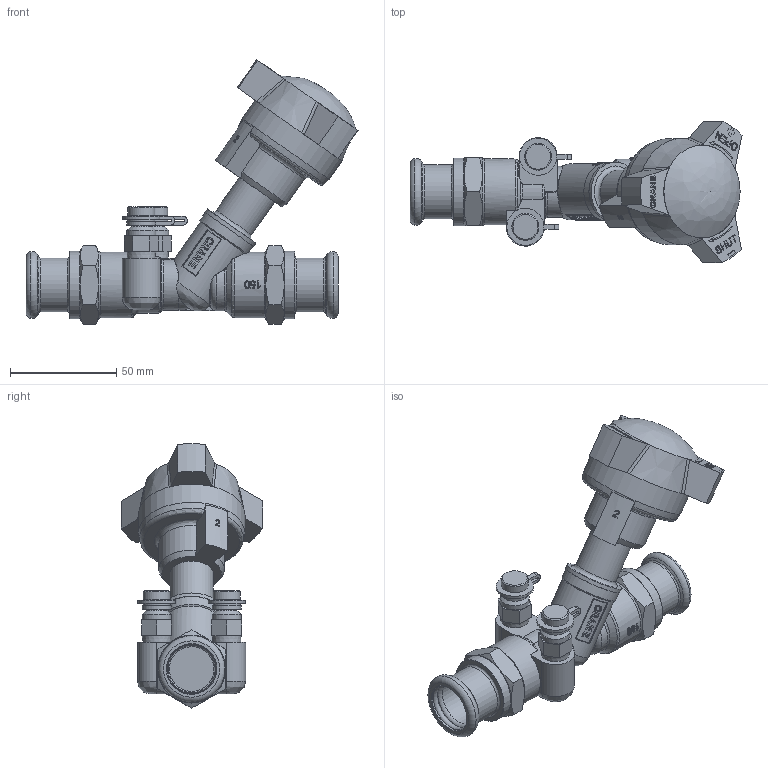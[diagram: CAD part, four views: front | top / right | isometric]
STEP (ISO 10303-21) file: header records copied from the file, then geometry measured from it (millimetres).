
FILE_DESCRIPTION((''),'2;1');
FILE_NAME('P:\Fastrack\53972_CRANE 3D\Push Fit\D931\D931-PF_22mm\D931-PF_22mm.stp','2011-08-24T10:38:37',('btaylor'),(''),'Autodesk Inventor 2008','Autodesk Inventor 2008','');
FILE_SCHEMA(('AUTOMOTIVE_DESIGN { 1 0 10303 214 1 1 1 1 }'));
Length unit declared in the file: millimetre
Products named in the file (1): D931-PF_22mm
Bounding box: 156.24 x 66.44 x 124.49 mm (x, y, z)
Volume: 195787.4 mm3; surface area: 42279.5 mm2
Topology: 1 solids, 3 shells, 875 faces, 2281 edges, 1480 vertices
Faces by surface type: bspline 368, plane 353, cylinder 85, cone 52, torus 15, sphere 2
Full cylindrical faces by diameter (mm): 7.4 x2, 11 x2, 12.7 x2, 13.7 x2, 20.3 x1, 22.2 x2, 23.2 x2, 24 x1, 25.4 x2, 27.5 x1, 28 x1, 31 x2, 31.8 x2, 50 x1
Entity records: 79906 total; most frequent: CARTESIAN_POINT 61298, ORIENTED_EDGE 4378, DIRECTION 2652, EDGE_CURVE 2189, VERTEX_POINT 1456, EDGE_LOOP 1013, VECTOR 1002, LINE 1002
